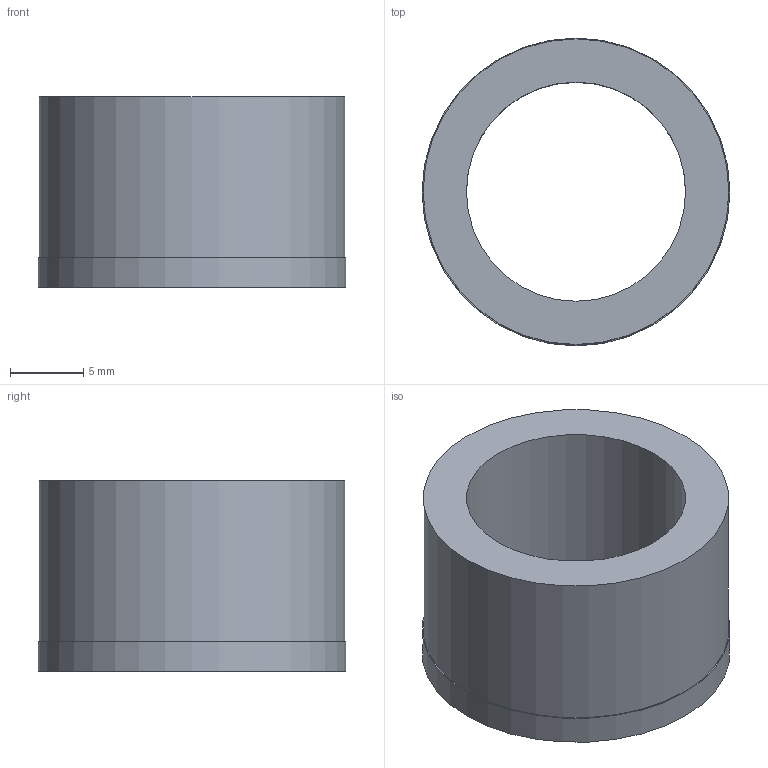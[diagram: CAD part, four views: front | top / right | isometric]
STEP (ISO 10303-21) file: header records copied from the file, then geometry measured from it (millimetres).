
FILE_DESCRIPTION (( 'STEP AP214' ), '1' );
FILE_NAME ('JF-20403-0009.STEP', '2018-04-18T14:52:17', ( '' ), ( '' ), 'SwSTEP 2.0', 'SolidWorks 2017', '' );
FILE_SCHEMA (( 'AUTOMOTIVE_DESIGN' ));
Length unit declared in the file: millimetre
Products named in the file (1): JF-20403-0009
Bounding box: 21 x 21 x 13 mm (x, y, z)
Volume: 2167.8 mm3; surface area: 1804.8 mm2
Topology: 1 solids, 1 shells, 10 faces, 17 edges, 11 vertices
Faces by surface type: cylinder 4, plane 4, cone 2
Full cylindrical faces by diameter (mm): 14.95 x1, 17.062 x1, 20.854 x1, 21 x1
Entity records: 242 total; most frequent: DIRECTION 42, CARTESIAN_POINT 31, AXIS2_PLACEMENT_3D 21, ORIENTED_EDGE 20, EDGE_LOOP 20, FACE_OUTER_BOUND 14, CIRCLE 10, EDGE_CURVE 10
